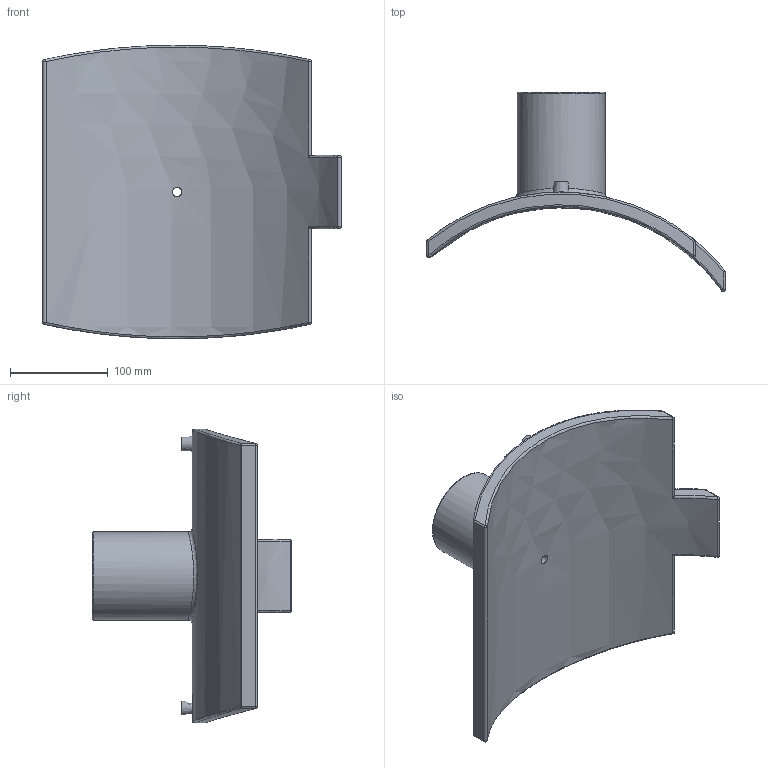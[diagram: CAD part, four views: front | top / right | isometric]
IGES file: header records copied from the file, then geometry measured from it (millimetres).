
Global section: file name: 495804400090T.ipt; native system: Autodesk Inventor 2015; preprocessor: unknown; author: KIM; date: 20171106.094339; units: millimetre
Bounding box: 305 x 203.54 x 299.96 mm (x, y, z)
Volume: 1597412.1 mm3; surface area: 258791.1 mm2
Topology: 2 solids, 2 shells, 66 faces, 132 edges, 78 vertices
Faces by surface type: cylinder 22, plane 14, sphere 12, revolution 11, bspline 5, cone 2
Full cylindrical faces by diameter (mm): 4 x2, 16 x1, 90 x1
